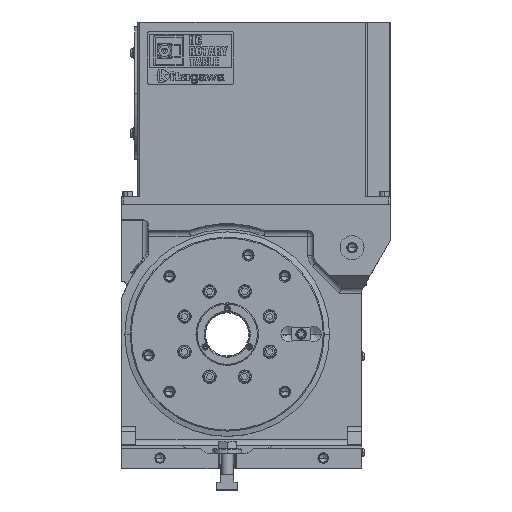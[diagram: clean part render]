
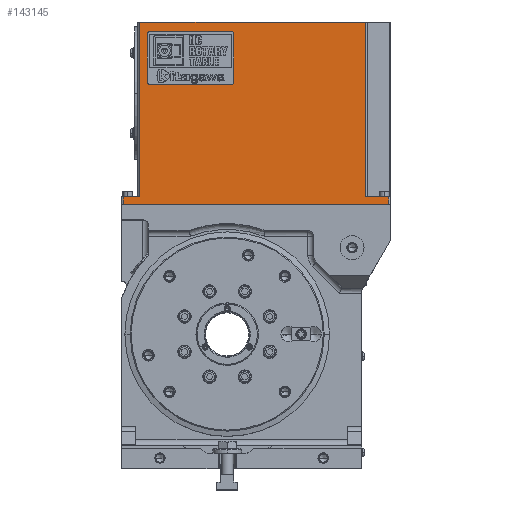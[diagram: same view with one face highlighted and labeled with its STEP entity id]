
A CAD part, top view. The second image highlights one B-rep face of the part: STEP entity #143145.
In plain terms, the highlighted planar face has unit normal (0, 0, 1).
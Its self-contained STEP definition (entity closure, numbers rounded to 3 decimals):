
#959 = LINE ( 'NONE', #88611, #37734 ) ;
#7138 = EDGE_LOOP ( 'NONE', ( #38110, #78125, #125809, #69907, #31095, #113798, #121071, #130405 ) ) ;
#7332 = CARTESIAN_POINT ( 'NONE',  ( 0., 8., 0. ) ) ;
#11870 = LINE ( 'NONE', #125198, #67723 ) ;
#15105 = LINE ( 'NONE', #64601, #51741 ) ;
#17901 = LINE ( 'NONE', #51977, #129696 ) ;
#18630 = DIRECTION ( 'NONE',  ( 0., 0., -1. ) ) ;
#21790 = DIRECTION ( 'NONE',  ( 0., -1., 0. ) ) ;
#23504 = LINE ( 'NONE', #70465, #75799 ) ;
#25383 = CARTESIAN_POINT ( 'NONE',  ( -278., 0., 0. ) ) ;
#25468 = VERTEX_POINT ( 'NONE', #91855 ) ;
#29238 = DIRECTION ( 'NONE',  ( 1., 0., 0. ) ) ;
#29849 = EDGE_CURVE ( 'NONE', #68859, #110155, #11870, .T. ) ;
#30335 = VECTOR ( 'NONE', #29238, 1000. ) ;
#30546 = VERTEX_POINT ( 'NONE', #45482 ) ;
#31095 = ORIENTED_EDGE ( 'NONE', *, *, #116198, .T. ) ;
#37734 = VECTOR ( 'NONE', #21790, 1000. ) ;
#38110 = ORIENTED_EDGE ( 'NONE', *, *, #142642, .F. ) ;
#43171 = DIRECTION ( 'NONE',  ( 1., 0., 0. ) ) ;
#43814 = AXIS2_PLACEMENT_3D ( 'NONE', #7332, #18630, #96722 ) ;
#45482 = CARTESIAN_POINT ( 'NONE',  ( -278., 8., 0. ) ) ;
#48492 = DIRECTION ( 'NONE',  ( 0., 1., 0. ) ) ;
#50852 = CARTESIAN_POINT ( 'NONE',  ( -25.828, 190., 0. ) ) ;
#51741 = VECTOR ( 'NONE', #142699, 1000. ) ;
#51977 = CARTESIAN_POINT ( 'NONE',  ( 0., 8., 0. ) ) ;
#52587 = EDGE_CURVE ( 'NONE', #30546, #83025, #959, .T. ) ;
#54727 = VERTEX_POINT ( 'NONE', #132810 ) ;
#57104 = EDGE_CURVE ( 'NONE', #89422, #25468, #23504, .T. ) ;
#63212 = DIRECTION ( 'NONE',  ( 1., 0., 0. ) ) ;
#64601 = CARTESIAN_POINT ( 'NONE',  ( -263., 190., 0. ) ) ;
#67723 = VECTOR ( 'NONE', #136448, 1000. ) ;
#68859 = VERTEX_POINT ( 'NONE', #143466 ) ;
#68945 = FACE_OUTER_BOUND ( 'NONE', #7138, .T. ) ;
#69907 = ORIENTED_EDGE ( 'NONE', *, *, #52587, .T. ) ;
#70465 = CARTESIAN_POINT ( 'NONE',  ( -2., 8., 0. ) ) ;
#75799 = VECTOR ( 'NONE', #48492, 1000. ) ;
#77810 = CARTESIAN_POINT ( 'NONE',  ( -261., 8., 0. ) ) ;
#78125 = ORIENTED_EDGE ( 'NONE', *, *, #98670, .T. ) ;
#81139 = LINE ( 'NONE', #98902, #130153 ) ;
#83025 = VERTEX_POINT ( 'NONE', #25383 ) ;
#83960 = VECTOR ( 'NONE', #122804, 1000. ) ;
#86267 = VERTEX_POINT ( 'NONE', #113856 ) ;
#88611 = CARTESIAN_POINT ( 'NONE',  ( -278., 8., 0. ) ) ;
#89422 = VERTEX_POINT ( 'NONE', #134272 ) ;
#89613 = LINE ( 'NONE', #96122, #30335 ) ;
#91855 = CARTESIAN_POINT ( 'NONE',  ( -2., 8., 0. ) ) ;
#96122 = CARTESIAN_POINT ( 'NONE',  ( 0., 0., 0. ) ) ;
#96722 = DIRECTION ( 'NONE',  ( -1., 0., 0. ) ) ;
#98670 = EDGE_CURVE ( 'NONE', #86267, #54727, #113687, .T. ) ;
#98902 = CARTESIAN_POINT ( 'NONE',  ( 0., 8., 0. ) ) ;
#110155 = VERTEX_POINT ( 'NONE', #50852 ) ;
#113244 = EDGE_CURVE ( 'NONE', #68859, #25468, #17901, .T. ) ;
#113687 = LINE ( 'NONE', #77810, #83960 ) ;
#113798 = ORIENTED_EDGE ( 'NONE', *, *, #57104, .T. ) ;
#113856 = CARTESIAN_POINT ( 'NONE',  ( -261., 190., 0. ) ) ;
#116198 = EDGE_CURVE ( 'NONE', #83025, #89422, #89613, .T. ) ;
#121071 = ORIENTED_EDGE ( 'NONE', *, *, #113244, .F. ) ;
#122804 = DIRECTION ( 'NONE',  ( 0., -1., 0. ) ) ;
#125198 = CARTESIAN_POINT ( 'NONE',  ( -25.828, 8., 0. ) ) ;
#125809 = ORIENTED_EDGE ( 'NONE', *, *, #137072, .F. ) ;
#129696 = VECTOR ( 'NONE', #63212, 1000. ) ;
#129955 = PLANE ( 'NONE',  #43814 ) ;
#130153 = VECTOR ( 'NONE', #43171, 1000. ) ;
#130405 = ORIENTED_EDGE ( 'NONE', *, *, #29849, .T. ) ;
#132810 = CARTESIAN_POINT ( 'NONE',  ( -261., 8., 0. ) ) ;
#134272 = CARTESIAN_POINT ( 'NONE',  ( -2., 0., 0. ) ) ;
#136448 = DIRECTION ( 'NONE',  ( 0., 1., 0. ) ) ;
#137072 = EDGE_CURVE ( 'NONE', #30546, #54727, #81139, .T. ) ;
#142642 = EDGE_CURVE ( 'NONE', #86267, #110155, #15105, .T. ) ;
#142699 = DIRECTION ( 'NONE',  ( 1., 0., 0. ) ) ;
#143145 = ADVANCED_FACE ( 'NONE', ( #68945 ), #129955, .F. ) ;
#143466 = CARTESIAN_POINT ( 'NONE',  ( -25.828, 8., 0. ) ) ;
